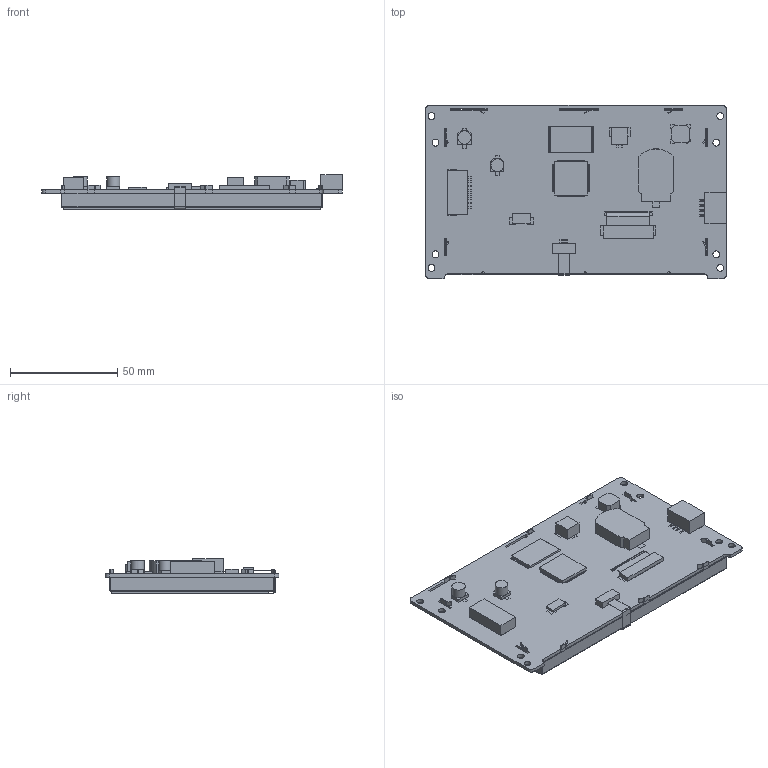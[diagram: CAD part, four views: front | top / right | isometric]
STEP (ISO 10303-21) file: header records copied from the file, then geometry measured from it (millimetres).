
FILE_DESCRIPTION(/* description */ (''),/* implementation_level */ '2;1');
FILE_NAME(/* name */ '3D_SDWa050T67AT.stp',/* time_stamp */ '2020-09-11T10:34:47+08:00',/* author */ (''),/* organization */ (''),/* preprocessor_version */ 'ST-DEVELOPER v15',/* originating_system */ 'SIEMENS PLM Software NX 8.5',/* authorisation */ '');
FILE_SCHEMA (('AP203_CONFIGURATION_CONTROLLED_3D_DESIGN_OF_MECHANICAL_PARTS_AND_ASSEMBLIES_MIM_LF { 1 0 10303 403 2 1 2}'));
Length unit declared in the file: millimetre
Products named in the file (1): SDWa050T67A
Bounding box: 140 x 80.9 x 16.11 mm (x, y, z)
Volume: 90146.5 mm3; surface area: 97276 mm2
Topology: 325 solids, 325 shells, 2086 faces, 4305 edges, 2870 vertices
Faces by surface type: plane 2022, cylinder 57, extrusion 7
Full cylindrical faces by diameter (mm): 3.2 x8, 5.931 x1, 6.258 x1
Entity records: 68868 total; most frequent: CARTESIAN_POINT 9606, ORIENTED_EDGE 8586, DIRECTION 8513, EDGE_CURVE 4293, VECTOR 4129, LINE 4122, VERTEX_POINT 2870, AXIS2_PLACEMENT_3D 2192
